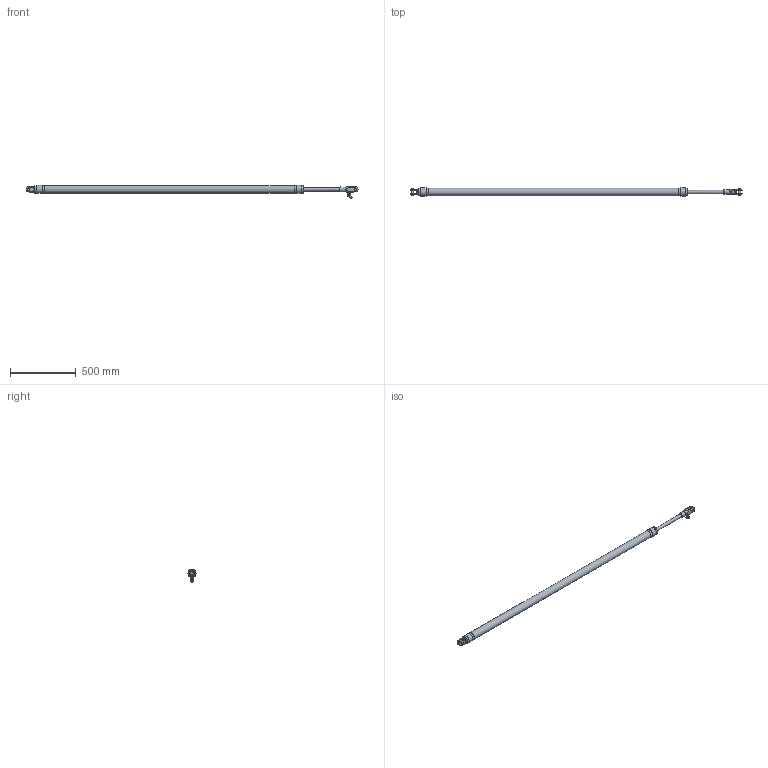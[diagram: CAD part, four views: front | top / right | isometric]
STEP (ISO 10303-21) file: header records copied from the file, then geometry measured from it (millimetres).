
FILE_DESCRIPTION(/* description */ (''),/* implementation_level */ '2;1');
FILE_NAME(/* name */ 'Q:\AA BRAND HYDRAULICS\HYDRAULICS FAMILY DIRECTORY\HYDRAULICS\CYLINDERS\VANGS\ALUMINIUM SINGLE ACTING - STAINLESS ON REQUEST (-0010 To -0150)\VSA-0017-S275-NP-71-L2200\VSA-0017-S275-NP-71-L2200 (Open).stp',/* time_stamp */ '2018-04-09T10:51:28+01:00',/* author */ ('Lorena'),/* organization */ (''),/* preprocessor_version */ 'ST-DEVELOPER v17',/* originating_system */ 'Autodesk Inventor 2018',/* authorisation */ '');
FILE_SCHEMA (('AUTOMOTIVE_DESIGN { 1 0 10303 214 3 1 1 }'));
Products named in the file (1): VSA-0017-S275-NP-71-L2200 (Open)
Bounding box: 2518.15 x 61.4 x 100.57 mm (x, y, z)
Volume: 5850413.5 mm3; surface area: 441590 mm2
Topology: 2 solids, 6 shells, 1727 faces, 4666 edges, 3092 vertices
Faces by surface type: plane 975, bspline 573, cone 95, cylinder 76, torus 4, sphere 4
Full cylindrical faces by diameter (mm): 4.2 x1, 5 x2, 5.1 x1, 5.9 x1, 11.157 x1, 11.5 x1, 11.8 x1, 12 x3, 12.157 x1, 12.5 x1, 12.77 x1, 13 x1, 13.157 x2, 14.5 x2, 15.88 x2, 18.3 x3, 19.85 x2, 22 x1, 25 x1, 29 x1, 35 x1, 58.4 x1, 59.4 x1, 61.4 x3
Entity records: 62030 total; most frequent: CARTESIAN_POINT 20833, ORIENTED_EDGE 9316, DIRECTION 6076, EDGE_CURVE 4658, VERTEX_POINT 3093, LINE 2924, VECTOR 2924, EDGE_LOOP 1885
